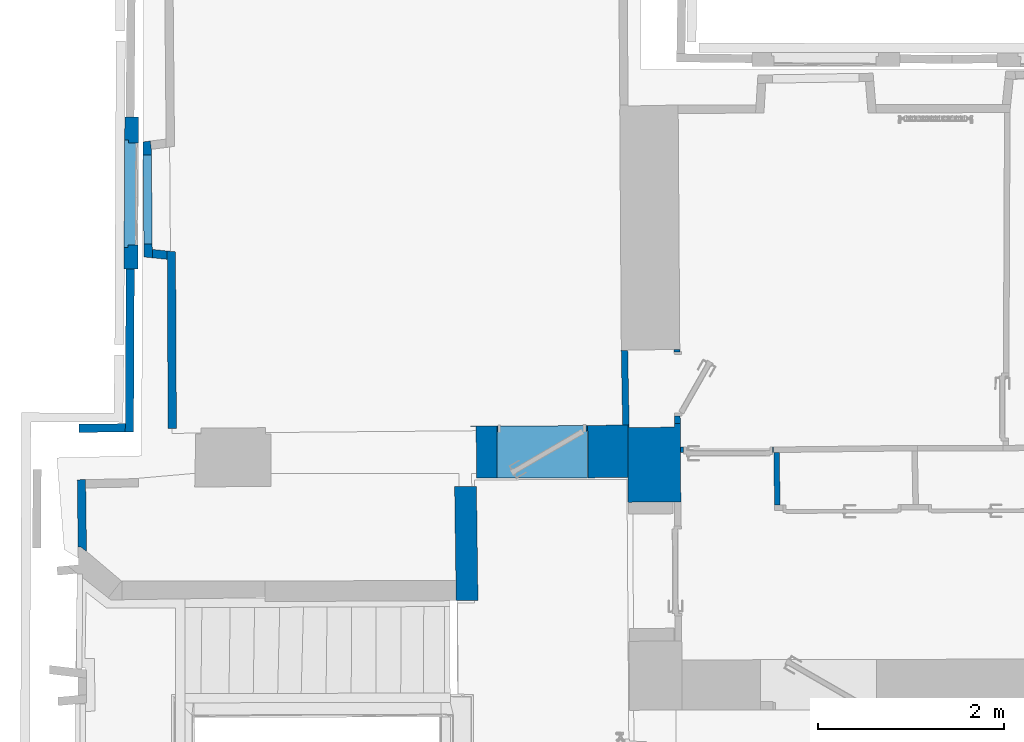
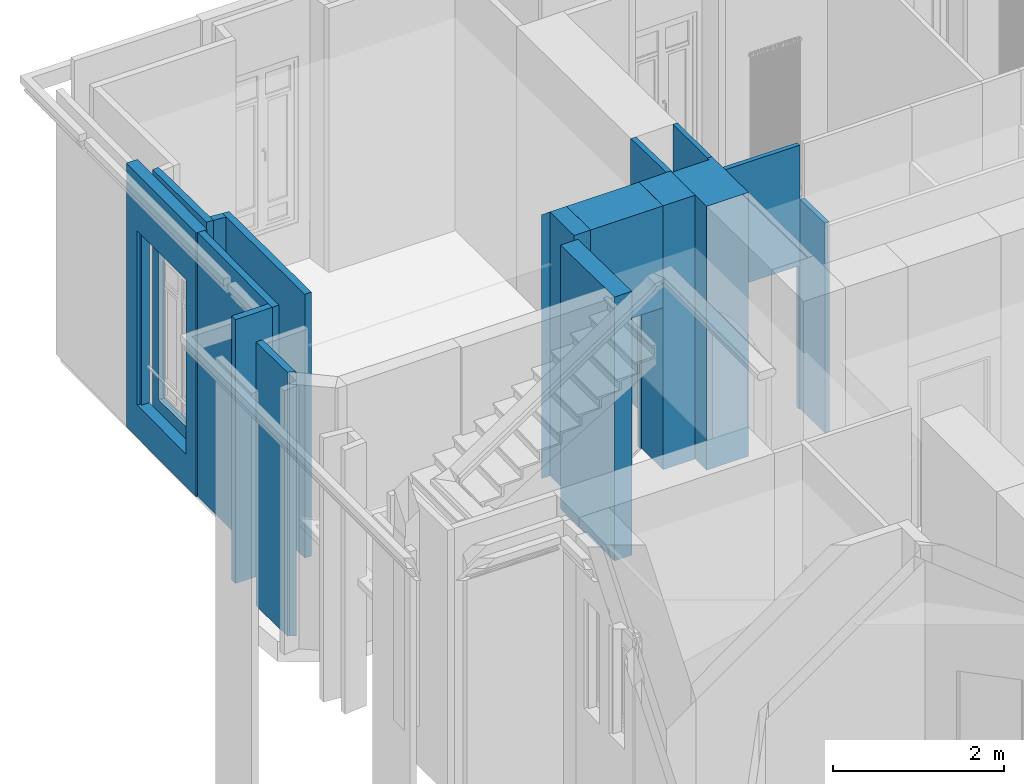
# One storey, part 8 of 66: 17 walls, 6 openings.
"""IFC2X3 building model written with IfcOpenShell, lengths in centimetres."""

import ifcopenshell
import ifcopenshell.guid

model = None  # the IFC model being written
_history = None  # IfcOwnerHistory: only IFC2X3 demands one
_inside = {}  # id of a spatial element -> (the spatial element, [elements in it])
_under = {}  # id of a project, library or spatial element -> (it, [spatial elements below it])
_declared = {}  # id of a project -> (the project, [libraries it declares])
_typed = {}  # id of a type object -> (the type object, [elements of that type])
_made_of = {}  # id of a material, layer set ... -> (it, [elements and type objects made of it])


def new_model(schema):
    """Start an empty IFC model of exactly this schema.

    Asked for "IFC4X3", IfcOpenShell would pick the latest addendum, in which some entities
    have other attributes; the version numbers below select the first issue.
    IFC2X3 requires an IfcOwnerHistory on every rooted entity: one is made here for all.
    """
    global model, _history
    if schema == "IFC4X3":
        model = ifcopenshell.file(schema_version=(4, 3, 0, 0))
    else:
        model = ifcopenshell.file(schema=schema)
    _inside.clear()
    _under.clear()
    _declared.clear()
    _typed.clear()
    _made_of.clear()
    _history = None
    if model.schema == "IFC2X3":
        org = make("IfcOrganization", Name="unknown")
        user = make(
            "IfcPersonAndOrganization",
            ThePerson=make("IfcPerson", FamilyName="unknown"),
            TheOrganization=org,
        )
        app = make(
            "IfcApplication",
            ApplicationDeveloper=org,
            Version="unknown",
            ApplicationFullName="unknown",
            ApplicationIdentifier="unknown",
        )
        _history = make(
            "IfcOwnerHistory",
            OwningUser=user,
            OwningApplication=app,
            ChangeAction="ADDED",
            CreationDate=0,
        )
    return model


def make(cls, **values):
    """One entity of the class cls with the attributes given. An attribute that is None is left unset."""
    return model.create_entity(
        cls, **{name: value for name, value in values.items() if value is not None}
    )


def entity(cls, *values):
    """Any entity or typed value of the class cls, its attributes in the order of the schema. None: left unset."""
    e = model.create_entity(cls)
    for i, value in enumerate(values):
        if value is not None:
            e[i] = value
    return e


def rooted(cls, **values):
    """An entity with a GlobalId (a new one), such as an element, a storey or a relation."""
    return make(cls, GlobalId=ifcopenshell.guid.new(), OwnerHistory=_history, **values)


def si_unit(unit_type, name, prefix=None):
    """IfcSIUnit, for example si_unit("LENGTHUNIT", "METRE", prefix="MILLI")."""
    return make("IfcSIUnit", UnitType=unit_type, Prefix=prefix, Name=name)


def converted_unit(unit_type, name, factor, base, dimensions=None, offset=None):
    """IfcConversionBasedUnit, such as the inch: factor (a typed value) times the base unit."""
    return make(
        "IfcConversionBasedUnit"
        if offset is None
        else "IfcConversionBasedUnitWithOffset",
        ConversionOffset=offset,
        Dimensions=None
        if dimensions is None
        else entity("IfcDimensionalExponents", *dimensions),
        UnitType=unit_type,
        Name=name,
        ConversionFactor=make(
            "IfcMeasureWithUnit", ValueComponent=factor, UnitComponent=base
        ),
    )


def assignment(units):
    """IfcUnitAssignment: the units of a project."""
    return None if units is None else make("IfcUnitAssignment", Units=units)


def point(xyz):
    """IfcCartesianPoint."""
    return None if xyz is None else make("IfcCartesianPoint", Coordinates=xyz)


def direction(xyz):
    """IfcDirection."""
    return None if xyz is None else make("IfcDirection", DirectionRatios=xyz)


def frame(location, z_axis=None, x_axis=None):
    """IfcAxis2Placement3D, a coordinate frame: its origin and axes. An axis left out is left unset."""
    return make(
        "IfcAxis2Placement3D",
        Location=point(location),
        Axis=direction(z_axis),
        RefDirection=direction(x_axis),
    )


def frame_2d(location, x_axis=None):
    """IfcAxis2Placement2D, a coordinate frame in the plane: its origin and x axis."""
    return make(
        "IfcAxis2Placement2D", Location=point(location), RefDirection=direction(x_axis)
    )


def origin():
    """The frame at (0, 0, 0) with its axes left unset."""
    return frame((0.0, 0.0, 0.0))


def origin_with_axes():
    """The frame at (0, 0, 0) with the z axis (0, 0, 1) and the x axis (1, 0, 0) written out."""
    return frame((0.0, 0.0, 0.0), z_axis=(0.0, 0.0, 1.0), x_axis=(1.0, 0.0, 0.0))


def origin_2d_with_axis():
    """The frame at (0, 0) in the plane with the x axis (1, 0) written out."""
    return frame_2d((0.0, 0.0), x_axis=(1.0, 0.0))


def place(relative_to, where):
    """IfcLocalPlacement: puts the frame where relative to a parent placement (None: the world)."""
    return make(
        "IfcLocalPlacement", PlacementRelTo=relative_to, RelativePlacement=where
    )


def context(
    kind, dimensions, precision=None, world=None, true_north=None, identifier=None
):
    """IfcGeometricRepresentationContext, for example the 3D "Model" context."""
    return make(
        "IfcGeometricRepresentationContext",
        ContextIdentifier=identifier,
        ContextType=kind,
        CoordinateSpaceDimension=dimensions,
        Precision=precision,
        WorldCoordinateSystem=world,
        TrueNorth=true_north,
    )


def subcontext(parent, identifier, kind, view, scale=None):
    """IfcGeometricRepresentationSubContext, for example "Body" below "Model"."""
    return make(
        "IfcGeometricRepresentationSubContext",
        ContextIdentifier=identifier,
        ContextType=kind,
        ParentContext=parent,
        TargetScale=scale,
        TargetView=view,
    )


def project(units=None, contexts=None):
    """IfcProject with its units and contexts."""
    return rooted(
        "IfcProject",
        Name="project",
        RepresentationContexts=contexts,
        UnitsInContext=assignment(units),
    )


def spatial(cls, under=None, at=None, **own):
    """A site, building, storey or space (cls), placed at a placement, below another one or the project."""
    s = rooted(cls, ObjectPlacement=at, **own)
    if under is not None:
        _under.setdefault(under.id(), (under, []))[1].append(s)
    return s


def polyline(points):
    """IfcPolyline through the points."""
    return make("IfcPolyline", Points=[point(p) for p in points])


def profile(cls, at=None, kind="AREA", **sizes):
    """A parametric profile (cls). Its sizes go by their IFC names, for example OverallWidth=200.0."""
    return make(cls, ProfileType=kind, Position=at, **sizes)


def rectangle(**sizes):
    """IfcRectangleProfileDef."""
    return profile("IfcRectangleProfileDef", **sizes)


def outline(outer, holes=None, kind="AREA"):
    """IfcArbitraryClosedProfileDef: a profile drawn as a closed curve; with holes, ...WithVoids."""
    if holes is None:
        return make("IfcArbitraryClosedProfileDef", ProfileType=kind, OuterCurve=outer)
    return make(
        "IfcArbitraryProfileDefWithVoids",
        ProfileType=kind,
        OuterCurve=outer,
        InnerCurves=holes,
    )


def extrude(swept, where, along, depth):
    """IfcExtrudedAreaSolid: the profile swept, set in the frame where, extruded along a direction by depth."""
    return make(
        "IfcExtrudedAreaSolid",
        SweptArea=swept,
        Position=where,
        ExtrudedDirection=direction(along),
        Depth=depth,
    )


def clip(a, b, op="DIFFERENCE"):
    """IfcBooleanClippingResult: the solid a cut by the half space b."""
    return make(
        "IfcBooleanClippingResult", Operator=op, FirstOperand=a, SecondOperand=b
    )


def bounded_halfspace(plane, agree, where, boundary):
    """IfcPolygonalBoundedHalfSpace: a half space limited to a polygon's prism."""
    return make(
        "IfcPolygonalBoundedHalfSpace",
        BaseSurface=make("IfcPlane", Position=plane),
        AgreementFlag=agree,
        Position=where,
        PolygonalBoundary=boundary,
    )


def faces_of(points, faces, orient=None, outer=None):
    """IfcFace entities. A face is a list of loops; a loop is a list of indices into points, from 0.

    orient and outer hold one flag for each loop. By default every Orientation is true, the
    first loop of a face is its IfcFaceOuterBound and the others are IfcFaceBound.
    """
    made = []
    for i, loops in enumerate(faces):
        bounds = []
        for j, loop in enumerate(loops):
            is_outer = j == 0 if outer is None else outer[i][j]
            bounds.append(
                make(
                    "IfcFaceOuterBound" if is_outer else "IfcFaceBound",
                    Bound=make("IfcPolyLoop", Polygon=[points[k] for k in loop]),
                    Orientation=True if orient is None else orient[i][j],
                )
            )
        made.append(make("IfcFace", Bounds=bounds))
    return made


def faceted_brep(points, faces, orient=None, outer=None, voids=None):
    """IfcFacetedBrep: a solid bounded by flat faces; with voids (closed shells), ...WithVoids."""
    shared = [point(p) for p in points]
    hull = make("IfcClosedShell", CfsFaces=faces_of(shared, faces, orient, outer))
    if voids is None:
        return make("IfcFacetedBrep", Outer=hull)
    return make(
        "IfcFacetedBrepWithVoids",
        Outer=hull,
        Voids=[
            make(cls, CfsFaces=faces_of(shared, fs, o, b)) for cls, fs, o, b in voids
        ],
    )


def shape(context_of_items, identifier, shape_type, items):
    """IfcShapeRepresentation: the items that make up one representation, for example the "Body"."""
    return make(
        "IfcShapeRepresentation",
        ContextOfItems=context_of_items,
        RepresentationIdentifier=identifier,
        RepresentationType=shape_type,
        Items=items,
    )


def material(Name=None, Category=None):
    """IfcMaterial."""
    return make("IfcMaterial", Name=Name, Category=Category)


def layer(
    of_material, thickness, ventilated=None, Name=None, Category=None, Priority=None
):
    """IfcMaterialLayer: one layer of a wall or slab, of a material (None: an air gap)."""
    return make(
        "IfcMaterialLayer",
        Material=of_material,
        LayerThickness=thickness,
        IsVentilated=ventilated,
        Name=Name,
        Category=Category,
        Priority=Priority,
    )


def layer_set(layers, Name=None):
    """IfcMaterialLayerSet."""
    return make("IfcMaterialLayerSet", MaterialLayers=layers, LayerSetName=Name)


def layer_usage(for_layer_set, set_direction, sense, offset, extent=None):
    """IfcMaterialLayerSetUsage: how a layer set lies in its element."""
    return make(
        "IfcMaterialLayerSetUsage",
        ForLayerSet=for_layer_set,
        LayerSetDirection=set_direction,
        DirectionSense=sense,
        OffsetFromReferenceLine=offset,
        ReferenceExtent=extent,
    )


def made_of(thing, what):
    """Note that an element or type object is made of a material, layer set ...; save() writes the relation."""
    if what is not None:
        _made_of.setdefault(what.id(), (what, []))[1].append(thing)
    return thing


def type_object(cls, material=None, **own):
    """A type object (cls), such as IfcWallType, which elements share."""
    return made_of(rooted(cls, **own), material)


def element(
    cls,
    number,
    at=None,
    inside=None,
    cuts=None,
    type_object=None,
    material=None,
    context=None,
    identifier="Body",
    shape_type=None,
    held_by="IfcProductDefinitionShape",
    body=None,
    shapes=None,
    **own,
):
    """One element of the class cls, such as IfcWall. Its Tag is "e" and its number.

    at: its placement. inside: the storey or other place that contains it. cuts: it is an
    opening in that element (IfcRelVoidsElement). A single representation is given by context,
    identifier, shape_type and body (its items); several are given by shapes. held_by: the class
    of the entity that holds the representations. save() writes the other relations.
    """
    e = rooted(cls, Tag="e%d" % number, ObjectPlacement=at, **own)
    if body is not None:
        shapes = [shape(context, identifier, shape_type, body)]
    if shapes is not None:
        e.Representation = make(held_by, Representations=shapes)
    if inside is not None:
        _inside.setdefault(inside.id(), (inside, []))[1].append(e)
    if cuts is not None:
        rooted(
            "IfcRelVoidsElement", RelatingBuildingElement=cuts, RelatedOpeningElement=e
        )
    if type_object is not None:
        _typed.setdefault(type_object.id(), (type_object, []))[1].append(e)
    return made_of(e, material)


def aggregate(whole, parts):
    """IfcRelAggregates: a whole, such as a stair, and the parts it consists of."""
    return rooted("IfcRelAggregates", RelatingObject=whole, RelatedObjects=parts)


def save(model, path):
    """Write the relations noted so far, then the file.

    IfcRelAggregates (storeys below a building ...), IfcRelContainedInSpatialStructure (elements
    in a storey), IfcRelDefinesByType, IfcRelAssociatesMaterial and IfcRelDeclares: one each for
    every whole, place, type object, material and project.
    """
    for whole, parts in _under.values():
        aggregate(whole, parts)
    for where, things in _inside.values():
        rooted(
            "IfcRelContainedInSpatialStructure",
            RelatedElements=things,
            RelatingStructure=where,
        )
    for kind, things in _typed.values():
        rooted("IfcRelDefinesByType", RelatedObjects=things, RelatingType=kind)
    for what, things in _made_of.values():
        rooted("IfcRelAssociatesMaterial", RelatedObjects=things, RelatingMaterial=what)
    for by, libraries in _declared.values():
        rooted("IfcRelDeclares", RelatingContext=by, RelatedDefinitions=libraries)
    model.write(path)


model = new_model("IFC2X3")

# Units and contexts
model_context = context("Model", 3, precision=0.0001, world=origin(), true_north=direction((0.225632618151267, 0.974212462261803, 0.0)))
body_context = subcontext(model_context, "Body", "Model", "MODEL_VIEW")
footprint_context = subcontext(model_context, "FootPrint", "Model", "MODEL_VIEW")
profile_context = subcontext(model_context, "Profile", "Model", "MODEL_VIEW")
ifc_project = project(units=[si_unit("LENGTHUNIT", "METRE", prefix="CENTI"), si_unit("AREAUNIT", "SQUARE_METRE", prefix="CENTI"), si_unit("VOLUMEUNIT", "CUBIC_METRE", prefix="CENTI"), converted_unit("PLANEANGLEUNIT", "DEGREE", entity("IfcRatioMeasure", 0.0174532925), si_unit("PLANEANGLEUNIT", "RADIAN"), dimensions=[0, 0, 0, 0, 0, 0, 0])], contexts=[model_context])

# Site, building, storey
site_placement = place(None, origin_with_axes())
site = spatial("IfcSite", under=ifc_project, at=site_placement, Name="Default Site", CompositionType="ELEMENT")
building_placement = place(site_placement, origin_with_axes())
building = spatial("IfcBuilding", under=site, at=building_placement, Name="Default Building", CompositionType="ELEMENT")
storey_placement = place(building_placement, frame((0.0, 0.0, 477.795358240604), z_axis=(0.0, 0.0, 1.0), x_axis=(1.0, 0.0, 0.0)))
storey = spatial("IfcBuildingStorey", under=building, at=storey_placement, Name="Niveau 1", CompositionType="ELEMENT", Elevation=477.795358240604)

# Wall, openings
ifc_material = material(Name="<aucun>")
ifc_layer_1 = layer(ifc_material, 9.0)
ifc_layer_set_1 = layer_set([ifc_layer_1], Name="default")
ifc_layer_usage_1 = layer_usage(ifc_layer_set_1, "AXIS2", "POSITIVE", -4.5)
wall_type_1 = type_object("IfcWallType", Name="default 90", PredefinedType="NOTDEFINED", material=ifc_layer_set_1)
wall_1_placement = place(storey_placement, frame((-1233.72467583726, 380.76500365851, 0.0128503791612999), z_axis=(0.0, 0.0, 1.0), x_axis=(-0.00919165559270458, 0.999957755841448, 0.0)))
wall_1 = element("IfcWallStandardCase", 1, at=wall_1_placement, inside=storey, type_object=wall_type_1, material=ifc_layer_usage_1, Name="Enveloppe 601372", context=body_context, shape_type="SweptSolid", body=[
    extrude(outline(polyline([(135.22010470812, 4.4999999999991), (11.294850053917, 4.49999999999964), (10.2808484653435, -4.49999999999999), (127.20550541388, -4.5000000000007), (136.145332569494, -3.46101471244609), (135.22010470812, 4.4999999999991)])), frame((0.0, 0.0, -8.88178419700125e-14), z_axis=(0.0, 0.0, 1.0), x_axis=(1.0, 0.0, 0.0)), (0.0, 0.0, 1.0), 376.102165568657),
])
opening_1_placement = place(wall_1_placement, frame((18.7711194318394, -2.27373675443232e-13, -3.5527136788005e-13), z_axis=(0.0, 0.0, 1.0), x_axis=(-1.0, 4.21537804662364e-15, 0.0)))
cartesian_point_1 = entity("IfcCartesianPoint", [0.0, -1.77635683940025e-13, 52.4999999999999])
cartesian_point_2 = entity("IfcCartesianPoint", [-109.068166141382, -4.49999999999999])
element("IfcOpeningElement", 2, at=opening_1_placement, cuts=wall_1, Name="Baie 115414", ObjectType="Recess", shapes=[
    shape(body_context, "Body", "Brep", [faceted_brep([(-6.89122297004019e-06, 24.4999788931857, -1.92276751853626e-05), (-109.068144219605, 24.4999788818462, -1.92276751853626e-05), (-109.068144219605, 24.4999788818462, 52.499990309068), (-6.89122297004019e-06, 24.4999788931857, 52.499990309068), (-6.88903966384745e-06, 3.50004163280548, 52.499990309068), (-6.88903966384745e-06, 3.50004163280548, -1.92276751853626e-05), (-7.40036956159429e-06, 3.50004163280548, -1.92276751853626e-05), (-109.068145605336, 3.49996058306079, -1.92276751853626e-05), (-109.068144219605, 24.4999932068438, -1.92276751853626e-05), (-109.068144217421, 3.49996058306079, -1.92276751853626e-05), (-109.068144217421, 3.49996058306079, 52.499990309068), (-109.068144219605, 24.4999932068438, 52.499990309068), (-109.068145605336, 3.49996058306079, 52.499990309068), (-7.40036956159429e-06, 3.50004163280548, 52.499990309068), (-7.40036955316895e-06, 3.49996059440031, -1.92276751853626e-05), (-7.40036955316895e-06, 3.49996059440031, 52.499990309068)], [[[0, 1, 2, 3]], [[3, 4, 5, 0]], [[0, 6, 7, 8]], [[8, 9, 10, 11]], [[11, 12, 13, 3]], [[12, 7, 14, 15]]])]),
    shape(profile_context, "Profile", "GeometricCurveSet", [entity("IfcGeometricCurveSet", [entity("IfcPolyline", [cartesian_point_1, entity("IfcCartesianPoint", [0.0, -1.77635683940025e-13, -8.88178419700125e-14]), entity("IfcCartesianPoint", [-109.068166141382, 0.0, -8.88178419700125e-14]), entity("IfcCartesianPoint", [-109.068166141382, 0.0, 52.4999999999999]), cartesian_point_1])])]),
    shape(footprint_context, "FootPrint", "GeometricCurveSet", [entity("IfcGeometricCurveSet", [entity("IfcPolyline", [cartesian_point_2, entity("IfcCartesianPoint", [8.88178419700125e-14, -4.50000000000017]), entity("IfcCartesianPoint", [0.0, 4.49999999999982]), entity("IfcCartesianPoint", [-109.068166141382, 4.49999999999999]), cartesian_point_2])])]),
])
opening_2_placement = place(wall_1_placement, frame((25.2711194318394, -2.27373675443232e-13, 56.4871496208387), z_axis=(0.0, 0.0, 1.0), x_axis=(-1.0, 4.21537804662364e-15, 0.0)))
cartesian_point_3 = entity("IfcCartesianPoint", [0.0, 0.0, 212.703082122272])
cartesian_point_4 = entity("IfcCartesianPoint", [-96.0681661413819, -4.49999999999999])
element("IfcOpeningElement", 3, at=opening_2_placement, cuts=wall_1, Name="4294966427_11", ObjectType="Opening", shapes=[
    shape(body_context, "Body", "SweptSolid", [extrude(outline(polyline([(0.0, 212.703082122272), (0.0, 0.0), (96.0681661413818, 0.0), (96.0681661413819, 212.703082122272), (0.0, 212.703082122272)])), frame((0.0, -14.5, 0.0), z_axis=(0.0, 1.0, 0.0), x_axis=(-1.0, 0.0, 0.0)), (0.0, 0.0, 1.0), 29.0)]),
    shape(profile_context, "Profile", "GeometricCurveSet", [entity("IfcGeometricCurveSet", [entity("IfcPolyline", [cartesian_point_3, entity("IfcCartesianPoint", [0.0, 0.0, 0.0]), entity("IfcCartesianPoint", [-96.0681661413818, 0.0, 0.0]), entity("IfcCartesianPoint", [-96.0681661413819, 0.0, 212.703082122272]), cartesian_point_3])])]),
    shape(footprint_context, "FootPrint", "GeometricCurveSet", [entity("IfcGeometricCurveSet", [entity("IfcPolyline", [cartesian_point_4, entity("IfcCartesianPoint", [0.0, -4.49999999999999]), entity("IfcCartesianPoint", [-8.88178419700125e-14, 4.49999999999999]), entity("IfcCartesianPoint", [-96.0681661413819, 4.49999999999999]), cartesian_point_4])])]),
])

# Walls
ifc_layer_usage_2 = layer_usage(ifc_layer_set_1, "AXIS2", "POSITIVE", -4.5)
wall_2_placement = place(storey_placement, frame((-1204.84046801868, 393.080429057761, 0.0128503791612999), z_axis=(0.0, 0.0, 1.0), x_axis=(-0.99469998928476, 0.102819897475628, 0.0)))
element("IfcWallStandardCase", 4, at=wall_2_placement, inside=storey, type_object=wall_type_1, material=ifc_layer_usage_2, Name="Enveloppe 601577", context=body_context, shape_type="SweptSolid", body=[
    extrude(outline(polyline([(25.1581723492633, -4.49999999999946), (24.1441707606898, 4.50000000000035), (8.00629896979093, 4.50000000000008), (8.98106806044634, -4.49999999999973), (25.1581723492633, -4.49999999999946)])), frame((0.0, 0.0, -1.77635683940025e-13), z_axis=(0.0, 0.0, 1.0), x_axis=(1.0, 0.0, 0.0)), (0.0, 0.0, 1.0), 376.102165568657),
])
ifc_layer_usage_3 = layer_usage(ifc_layer_set_1, "AXIS2", "POSITIVE", -4.5)
wall_3_placement = place(storey_placement, frame((-1207.87755879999, 207.366578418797, 0.0128503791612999), z_axis=(0.0, 0.0, 1.0), x_axis=(-0.00488517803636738, 0.999988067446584, 0.0)))
element("IfcWallStandardCase", 5, at=wall_3_placement, inside=storey, type_object=wall_type_1, material=ifc_layer_usage_3, Name="Enveloppe 93894", context=body_context, shape_type="SweptSolid", body=[
    extrude(outline(polyline([(191.137697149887, 4.50000000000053), (0.0474882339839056, 4.49999999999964), (0.0192687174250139, -4.49999999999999), (190.162928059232, -4.49999999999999), (191.137697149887, 4.50000000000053)])), frame((0.0, 0.0, -1.77635683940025e-13), z_axis=(0.0, 0.0, 1.0), x_axis=(1.0, 0.0, 0.0)), (0.0, 0.0, 1.0), 376.102165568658),
])
ifc_layer_usage_4 = layer_usage(ifc_layer_set_1, "AXIS2", "POSITIVE", -4.5)
wall_4_placement = place(storey_placement, frame((-1304.6920001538, 72.5126109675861, 0.0128503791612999), z_axis=(0.0, 0.0, 1.0), x_axis=(-0.0132160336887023, 0.999912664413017, 0.0)))
element("IfcWallStandardCase", 6, at=wall_4_placement, inside=storey, type_object=wall_type_1, material=ifc_layer_usage_4, Name="Enveloppe 94314", context=body_context, shape_type="SweptSolid", body=[
    extrude(outline(polyline([(79.4922915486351, 4.49999999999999), (7.12642857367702, 4.49999999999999), (7.12642857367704, 1.64568908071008), (2.15340177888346, -4.49999999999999), (79.5574651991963, -4.49999999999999), (79.4922915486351, 4.49999999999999)])), frame((0.0, 0.0, -8.88178419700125e-14), z_axis=(0.0, 0.0, 1.0), x_axis=(1.0, 0.0, 0.0)), (0.0, 0.0, 1.0), 376.102165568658),
])

# Wall, opening
ifc_layer_2 = layer(ifc_material, 6.0)
ifc_layer_set_2 = layer_set([ifc_layer_2], Name="default")
ifc_layer_usage_5 = layer_usage(ifc_layer_set_2, "AXIS2", "POSITIVE", -3.0)
wall_type_2 = type_object("IfcWallType", Name="default 60", PredefinedType="NOTDEFINED", material=ifc_layer_set_2)
wall_5_placement = place(storey_placement, frame((-559.762901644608, 184.349848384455, 0.0128503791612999), z_axis=(0.0, 0.0, 1.0), x_axis=(-0.999998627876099, 0.00165657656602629, 0.0)))
wall_5 = element("IfcWallStandardCase", 7, at=wall_5_placement, inside=storey, type_object=wall_type_2, material=ifc_layer_usage_5, Name="Enveloppe 92784", context=body_context, shape_type="Clipping", body=[
    clip(clip(extrude(outline(polyline([(100.602058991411, -2.99999999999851), (100.551954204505, 3.00000000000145), (0.0, 3.00000000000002), (0.0, -2.919862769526), (-5.85015996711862, -3.00000000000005), (100.602058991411, -2.99999999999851)])), origin_with_axes(), (0.0, 0.0, 1.0), 376.102165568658), bounded_halfspace(frame((0.0, -2.919862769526, 298.702165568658), z_axis=(0.0, 0.0, 1.0), x_axis=(-3.99203239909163e-15, 1.0, 0.0)), True, frame((0.0, -2.919862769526, 298.702165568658), z_axis=(0.0, 0.0, 1.0), x_axis=(1.0, 0.0, 0.0)), polyline([(0.0, 0.0), (0.0, 5.91986276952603), (0.153158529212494, 5.91986276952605), (0.153158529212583, 0.00209801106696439), (0.0, 0.0)]))), bounded_halfspace(frame((8.88178419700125e-14, -2.99999999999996, 298.702165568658), z_axis=(0.0, 0.0, -1.0), x_axis=(-8.13431136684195e-13, 1.0, 0.0)), True, frame((8.88178419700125e-14, -2.99999999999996, 298.702165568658), z_axis=(0.0, 0.0, 1.0), x_axis=(1.0, 0.0, 0.0)), polyline([(-5.8501599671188, -8.88178419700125e-14), (0.0, 2.22044604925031e-14), (-8.88178419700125e-14, 0.0801372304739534), (-5.8501599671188, -8.88178419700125e-14)]))),
])
opening_3_placement = place(wall_5_placement, frame((1.30117816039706, -2.8421709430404e-14, -3.5527136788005e-13), z_axis=(0.0, 0.0, 1.0), x_axis=(1.0, 1.44975177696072e-14, 0.0)))
cartesian_point_5 = entity("IfcCartesianPoint", [0.0, 0.0, 204.4])
cartesian_point_6 = entity("IfcCartesianPoint", [96.0, 3.00000000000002])
element("IfcOpeningElement", 8, at=opening_3_placement, cuts=wall_5, Name="4294966366_11", ObjectType="Opening", shapes=[
    shape(body_context, "Body", "SweptSolid", [extrude(outline(polyline([(8.88178419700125e-14, 204.4), (8.88178419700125e-14, -8.88178419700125e-14), (96.0, -8.88178419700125e-14), (96.0, 204.4), (8.88178419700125e-14, 204.4)])), frame((0.0, 13.0, 0.0), z_axis=(0.0, -1.0, 0.0), x_axis=(1.0, 0.0, 0.0)), (0.0, 0.0, 1.0), 26.0)]),
    shape(profile_context, "Profile", "GeometricCurveSet", [entity("IfcGeometricCurveSet", [entity("IfcPolyline", [cartesian_point_5, entity("IfcCartesianPoint", [0.0, 0.0, -8.88178419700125e-14]), entity("IfcCartesianPoint", [96.0, 0.0, -8.88178419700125e-14]), entity("IfcCartesianPoint", [96.0, 0.0, 204.4]), cartesian_point_5])])]),
    shape(footprint_context, "FootPrint", "GeometricCurveSet", [entity("IfcGeometricCurveSet", [entity("IfcPolyline", [cartesian_point_6, entity("IfcCartesianPoint", [2.66453525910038e-13, 3.00000000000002]), entity("IfcCartesianPoint", [2.66453525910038e-13, -2.99999999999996]), entity("IfcCartesianPoint", [96.0, -2.99999999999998]), cartesian_point_6])])]),
])

ifc_layer_usage_6 = layer_usage(ifc_layer_set_2, "AXIS2", "POSITIVE", -3.0)
wall_6_placement = place(storey_placement, frame((-858.079757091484, 206.912569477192, 0.0128503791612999), z_axis=(0.0, 0.0, 1.0), x_axis=(0.999993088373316, 0.00371795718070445, 0.0)))
wall_6 = element("IfcWallStandardCase", 9, at=wall_6_placement, inside=storey, type_object=wall_type_2, material=ifc_layer_usage_6, Name="Enveloppe 116205", context=body_context, shape_type="SweptSolid", body=[
    extrude(rectangle(XDim=97.6601549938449, YDim=5.99999999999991, at=origin_2d_with_axis()), frame((48.930399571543, -8.88178419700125e-14, -1.77635683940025e-13), z_axis=(0.0, 0.0, 1.0), x_axis=(1.0, -1.0321604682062e-15, 0.0)), (0.0, 0.0, 1.0), 230.987149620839),
])
opening_4_placement = place(wall_6_placement, frame((0.986764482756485, 0.0, -3.5527136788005e-13), z_axis=(0.0, 0.0, 1.0), x_axis=(-1.0, 1.58727198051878e-16, 0.0)))
cartesian_point_7 = entity("IfcCartesianPoint", [0.0, 0.0, 207.0])
cartesian_point_8 = entity("IfcCartesianPoint", [-94.9999999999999, -2.99999999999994])
element("IfcOpeningElement", 10, at=opening_4_placement, cuts=wall_6, Name="4294966392_11", ObjectType="Opening", shapes=[
    shape(body_context, "Body", "SweptSolid", [extrude(outline(polyline([(0.0, 207.0), (0.0, 0.0), (94.9999999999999, 0.0), (94.9999999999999, 207.0), (0.0, 207.0)])), frame((0.0, -13.0, 0.0), z_axis=(0.0, 1.0, 0.0), x_axis=(-1.0, 0.0, 0.0)), (0.0, 0.0, 1.0), 26.0)]),
    shape(profile_context, "Profile", "GeometricCurveSet", [entity("IfcGeometricCurveSet", [entity("IfcPolyline", [cartesian_point_7, entity("IfcCartesianPoint", [0.0, 0.0, 0.0]), entity("IfcCartesianPoint", [-94.9999999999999, 8.88178419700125e-14, 0.0]), entity("IfcCartesianPoint", [-94.9999999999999, 8.88178419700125e-14, 207.0]), cartesian_point_7])])]),
    shape(footprint_context, "FootPrint", "GeometricCurveSet", [entity("IfcGeometricCurveSet", [entity("IfcPolyline", [cartesian_point_8, entity("IfcCartesianPoint", [0.0, -2.99999999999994]), entity("IfcCartesianPoint", [0.0, 3.00000000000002]), entity("IfcCartesianPoint", [-94.9999999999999, 3.00000000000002]), cartesian_point_8])])]),
])

ifc_layer_usage_7 = layer_usage(ifc_layer_set_2, "AXIS2", "POSITIVE", -3.0)
wall_7_placement = place(storey_placement, frame((-663.24168511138, 169.854004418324, 0.0128503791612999), z_axis=(0.0, 0.0, 1.0), x_axis=(-0.0066939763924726, 0.999977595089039, 0.0)))
wall_7 = element("IfcWallStandardCase", 11, at=wall_7_placement, inside=storey, type_object=wall_type_2, material=ifc_layer_usage_7, Name="Enveloppe 103209", context=body_context, shape_type="SweptSolid", body=[
    extrude(rectangle(XDim=6.00000000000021, YDim=79.9179263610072, at=origin_2d_with_axis()), frame((82.5515414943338, -1.77635683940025e-13, 8.88178419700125e-14), z_axis=(0.0, 0.0, 1.0), x_axis=(-7.59982354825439e-15, -1.0, 0.0)), (0.0, 0.0, 1.0), 376.102165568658),
])
opening_5_placement = place(wall_7_placement, frame((51.0317572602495, -2.27373675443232e-13, -1.77635683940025e-13), z_axis=(0.0, 0.0, 1.0), x_axis=(-1.0, 9.22872889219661e-16, 0.0)))
cartesian_point_9 = entity("IfcCartesianPoint", [0.0, -8.88178419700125e-14, 201.4])
cartesian_point_10 = entity("IfcCartesianPoint", [-68.995920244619, -3.00000000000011])
element("IfcOpeningElement", 12, at=opening_5_placement, cuts=wall_7, Name="4294966334_11", ObjectType="Opening", shapes=[
    shape(body_context, "Body", "SweptSolid", [extrude(outline(polyline([(8.88178419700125e-14, 201.4), (0.0, 0.0), (68.995920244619, 0.0), (68.995920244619, 201.4), (8.88178419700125e-14, 201.4)])), frame((0.0, -13.0, 0.0), z_axis=(0.0, 1.0, 0.0), x_axis=(-1.0, 0.0, 0.0)), (0.0, 0.0, 1.0), 26.0)]),
    shape(profile_context, "Profile", "GeometricCurveSet", [entity("IfcGeometricCurveSet", [entity("IfcPolyline", [cartesian_point_9, entity("IfcCartesianPoint", [0.0, -8.88178419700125e-14, 0.0]), entity("IfcCartesianPoint", [-68.995920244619, -8.88178419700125e-14, 0.0]), entity("IfcCartesianPoint", [-68.995920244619, -8.88178419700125e-14, 201.4]), cartesian_point_9])])]),
    shape(footprint_context, "FootPrint", "GeometricCurveSet", [entity("IfcGeometricCurveSet", [entity("IfcPolyline", [cartesian_point_10, entity("IfcCartesianPoint", [0.0, -3.00000000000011]), entity("IfcCartesianPoint", [0.0, 2.99999999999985]), entity("IfcCartesianPoint", [-68.995920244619, 2.99999999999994]), cartesian_point_10])])]),
])

# Walls
ifc_layer_usage_8 = layer_usage(ifc_layer_set_2, "AXIS2", "POSITIVE", -3.0)
wall_8_placement = place(storey_placement, frame((-555.906561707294, 118.687913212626, 0.0128503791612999), z_axis=(0.0, 0.0, 1.0), x_axis=(-0.0145870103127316, 0.999893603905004, 0.0)))
element("IfcWallStandardCase", 13, at=wall_8_placement, inside=storey, type_object=wall_type_2, material=ifc_layer_usage_8, Name="Enveloppe 103698", context=body_context, shape_type="SweptSolid", body=[
    extrude(outline(polyline([(62.6310398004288, 2.99999999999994), (6.07875158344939, 2.99999999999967), (6.0145167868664, -3.00000000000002), (62.615759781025, -2.99999999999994), (62.6310398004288, 2.99999999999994)])), origin_with_axes(), (0.0, 0.0, 1.0), 298.702165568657),
])
ifc_layer_3 = layer(ifc_material, 7.0)
ifc_layer_set_3 = layer_set([ifc_layer_3], Name="default")
ifc_layer_usage_9 = layer_usage(ifc_layer_set_3, "AXIS2", "POSITIVE", -3.5)
wall_type_3 = type_object("IfcWallType", Name="default 70", PredefinedType="NOTDEFINED", material=ifc_layer_set_3)
wall_9_placement = place(storey_placement, frame((-719.103140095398, 208.266844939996, 0.0128503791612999), z_axis=(0.0, 0.0, 1.0), x_axis=(-0.0186533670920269, 0.999826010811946, 0.0)))
element("IfcWallStandardCase", 14, at=wall_9_placement, inside=storey, type_object=wall_type_3, material=ifc_layer_usage_9, Name="Enveloppe 103324", context=body_context, shape_type="SweptSolid", body=[
    extrude(outline(polyline([(83.7821282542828, 3.50000000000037), (2.89702254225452, 3.50000000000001), (2.80295584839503, -2.06398477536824), (2.99702254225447, -2.06630600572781), (2.99702254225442, -3.5000000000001), (83.1894540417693, -3.49999999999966), (83.1894540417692, 3.40221727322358), (83.7811846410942, 3.39513958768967), (83.7821282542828, 3.50000000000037)])), frame((0.0, 0.0, -4.44089209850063e-13), z_axis=(0.0, 0.0, 1.0), x_axis=(1.0, 0.0, 0.0)), (0.0, 0.0, 1.0), 376.102165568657),
])
ifc_layer_4 = layer(ifc_material, 23.5)
ifc_layer_set_4 = layer_set([ifc_layer_4], Name="default")
ifc_layer_usage_10 = layer_usage(ifc_layer_set_4, "AXIS2", "POSITIVE", -11.75)
wall_type_4 = type_object("IfcWallType", Name="default 235", PredefinedType="NOTDEFINED", material=ifc_layer_set_4)
wall_10_placement = place(storey_placement, frame((-890.245736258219, 21.3843089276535, 0.0128503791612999), z_axis=(0.0, 0.0, 1.0), x_axis=(-0.0135262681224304, 0.999908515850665, 0.0)))
element("IfcWallStandardCase", 15, at=wall_10_placement, inside=storey, type_object=wall_type_4, material=ifc_layer_usage_10, Name="Enveloppe 94341", context=body_context, shape_type="SweptSolid", body=[
    extrude(outline(polyline([(123.670589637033, 11.7500000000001), (0.463547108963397, 11.7500000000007), (0.253866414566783, -11.75), (123.393817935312, -11.7500000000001), (123.670589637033, 11.7500000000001)])), origin_with_axes(), (0.0, 0.0, 1.0), 376.102165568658),
])
ifc_layer_usage_11 = layer_usage(ifc_layer_set_1, "AXIS2", "POSITIVE", -4.5)
wall_type_5 = type_object("IfcWallType", Name="default 90", PredefinedType="NOTDEFINED", material=ifc_layer_set_1)
wall_11_placement = place(storey_placement, frame((-1253.99015703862, 212.366991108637, 0.0128503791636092), z_axis=(0.0, 0.0, 1.0), x_axis=(0.0048785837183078, 0.999988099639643, 0.0)))
element("IfcWallStandardCase", 16, at=wall_11_placement, inside=storey, type_object=wall_type_5, material=ifc_layer_usage_11, Name="Enveloppe 422609", context=body_context, shape_type="SweptSolid", body=[
    extrude(outline(polyline([(-9.00211753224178, 4.49999999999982), (-8.89277483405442, -4.49999999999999), (166.499623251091, -4.49999999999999), (166.504455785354, 4.49999999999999), (-9.00211753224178, 4.49999999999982)])), frame((0.0, 0.0, -1.77635683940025e-13), z_axis=(0.0, 0.0, 1.0), x_axis=(1.0, 0.0, 0.0)), (0.0, 0.0, 1.0), 376.102165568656),
])
ifc_layer_usage_12 = layer_usage(ifc_layer_set_1, "AXIS2", "POSITIVE", -4.5)
wall_12_placement = place(storey_placement, frame((-1308.30093347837, 207.525242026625, 0.0128503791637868), z_axis=(0.0, 0.0, 1.0), x_axis=(0.999973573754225, 0.00726992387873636, 0.0)))
element("IfcWallStandardCase", 17, at=wall_12_placement, inside=storey, type_object=wall_type_5, material=ifc_layer_usage_12, Name="Enveloppe 422672", context=body_context, shape_type="SweptSolid", body=[
    extrude(outline(polyline([(0.0, 4.49999999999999), (1.77635683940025e-13, -4.49999999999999), (49.7355120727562, -4.49999999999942), (49.8448547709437, 4.50000000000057), (0.0, 4.49999999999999)])), frame((0.0, 0.0, -2.93098878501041e-12), z_axis=(0.0, 0.0, 1.0), x_axis=(1.0, 0.0, 0.0)), (0.0, 0.0, 1.0), 376.102165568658),
])

# Wall, opening
ifc_layer_5 = layer(ifc_material, 15.0)
ifc_layer_set_5 = layer_set([ifc_layer_5], Name="default")
ifc_layer_usage_13 = layer_usage(ifc_layer_set_5, "AXIS2", "POSITIVE", -7.5)
wall_type_6 = type_object("IfcWallType", Name="default 150", PredefinedType="NOTDEFINED", material=ifc_layer_set_5)
wall_13_placement = place(storey_placement, frame((-1252.37505305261, 378.862701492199, 0.0128503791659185), z_axis=(0.0, 0.0, 1.0), x_axis=(0.00541552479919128, 0.999985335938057, 0.0)))
wall_13 = element("IfcWallStandardCase", 18, at=wall_13_placement, inside=storey, type_object=wall_type_6, material=ifc_layer_usage_13, Name="Enveloppe 425479", context=body_context, shape_type="SweptSolid", body=[
    extrude(rectangle(XDim=164.149421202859, YDim=15.0000000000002, at=origin_2d_with_axis()), frame((82.0747106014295, 0.0, -2.39808173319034e-12), z_axis=(0.0, 0.0, 1.0), x_axis=(1.0, 2.85015067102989e-15, 0.0)), (0.0, 0.0, 1.0), 376.102165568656),
])
opening_6_placement = place(wall_13_placement, frame((23.2500314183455, 4.54747350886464e-13, 46.5010661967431), z_axis=(0.0, 0.0, 1.0), x_axis=(1.0, 2.85275275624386e-15, 0.0)))
cartesian_point_11 = entity("IfcCartesianPoint", [0.0, -1.77635683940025e-13, 248.195837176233])
cartesian_point_12 = entity("IfcCartesianPoint", [115.643675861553, 7.49999999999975])
element("IfcOpeningElement", 19, at=opening_6_placement, cuts=wall_13, Name="Baie 427148", ObjectType="Opening", shapes=[
    shape(body_context, "Body", "Brep", [faceted_brep([(-1.39778681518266e-05, 27.4999871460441, 248.195817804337), (115.6436572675, 27.4999871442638, 248.195817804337), (115.6436572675, 27.4999871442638, -2.11238860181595e-05), (-1.39778681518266e-05, 27.4999871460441, -2.11238860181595e-05), (2.99997715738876, -27.5000414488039, -2.11238860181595e-05), (112.643661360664, -27.5000414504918, -2.11238860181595e-05), (112.643661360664, -27.5000414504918, 248.195817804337), (2.99997715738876, -27.5000414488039, 248.195817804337), (2.999977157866, 3.49997833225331, 248.195817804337), (2.999977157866, 3.49997833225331, -2.11238860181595e-05), (2.99999014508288, 3.49997833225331, -2.11238860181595e-05), (2.99999014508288, 3.49997833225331, 248.195817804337), (2.02073124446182e-05, 3.49997833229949, 248.195817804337), (2.02073124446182e-05, 3.49997833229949, -2.11238860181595e-05), (2.02073124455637e-05, 3.50003975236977, -2.11238860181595e-05), (2.02073124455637e-05, 3.50003975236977, 248.195817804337), (2.02076819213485e-05, 27.4999871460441, 248.195817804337), (2.02076819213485e-05, 27.4999871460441, -2.11238860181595e-05), (112.643661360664, -27.500020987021, -2.11238860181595e-05), (115.6436572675, 27.4999803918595, -2.11238860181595e-05), (115.64369145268, 3.500032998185, -2.11238860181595e-05), (112.643674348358, 3.49999879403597, -2.11238860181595e-05), (112.643661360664, -27.500020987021, 248.195817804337), (112.643661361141, 3.49999879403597, -2.11238860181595e-05), (112.643661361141, 3.49999879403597, 248.195817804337), (112.643674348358, 3.49999879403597, 248.195817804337), (112.643674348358, 3.49999879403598, -2.11238860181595e-05), (115.64369145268, 3.49999879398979, -2.11238860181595e-05), (115.64369145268, 3.49999879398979, 248.195817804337), (115.64369145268, 3.500032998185, 248.195817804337), (115.64369145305, 27.4999803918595, -2.11238860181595e-05), (115.64369145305, 27.4999803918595, 248.195817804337), (115.6436572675, 27.4999803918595, 248.195817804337)], [[[0, 1, 2, 3]], [[4, 5, 6, 7]], [[4, 7, 8, 9]], [[10, 11, 12, 13]], [[14, 15, 16, 17]], [[18, 4, 10, 14, 3, 19, 20, 21]], [[22, 18, 23, 24]], [[25, 26, 27, 28]], [[29, 20, 30, 31]], [[25, 29, 32, 0, 15, 11, 7, 22]]])]),
    shape(profile_context, "Profile", "GeometricCurveSet", [entity("IfcGeometricCurveSet", [entity("IfcPolyline", [cartesian_point_11, entity("IfcCartesianPoint", [0.0, -1.77635683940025e-13, 0.0]), entity("IfcCartesianPoint", [115.643675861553, -1.77635683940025e-13, 0.0]), entity("IfcCartesianPoint", [115.643675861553, -1.77635683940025e-13, 248.195837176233]), cartesian_point_11])])]),
    shape(footprint_context, "FootPrint", "GeometricCurveSet", [entity("IfcGeometricCurveSet", [entity("IfcPolyline", [cartesian_point_12, entity("IfcCartesianPoint", [4.44089209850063e-14, 7.49999999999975]), entity("IfcCartesianPoint", [4.44089209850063e-14, -7.50000000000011]), entity("IfcCartesianPoint", [115.643675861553, -7.50000000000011]), cartesian_point_12])])]),
])

# Walls
ifc_layer_6 = layer(ifc_material, 54.0)
ifc_layer_set_6 = layer_set([ifc_layer_6], Name="default")
ifc_layer_usage_14 = layer_usage(ifc_layer_set_6, "AXIS2", "POSITIVE", -27.0)
wall_type_7 = type_object("IfcWallType", Name="default 540", PredefinedType="NOTDEFINED", material=ifc_layer_set_6)
wall_14_placement = place(storey_placement, frame((-760.180122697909, 181.135767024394, 0.0128503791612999), z_axis=(0.0, 0.0, 1.0), x_axis=(0.999998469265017, 0.0017497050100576, 0.0)))
element("IfcWallStandardCase", 20, at=wall_14_placement, inside=storey, type_object=wall_type_7, material=ifc_layer_usage_14, Name="Enveloppe 93926", context=body_context, shape_type="Clipping", body=[
    clip(clip(extrude(outline(polyline([(-0.0999998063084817, 29.1404705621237), (-0.0881902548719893, 23.1404821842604), (-5.73707570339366e-07, 23.1403278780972), (0.0, -27.0), (43.4220173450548, -27.0), (43.1406999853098, 29.8966086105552), (37.57592010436, 29.8966086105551), (-0.0999998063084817, 29.1404705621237)])), frame((0.0, 0.0, -1.77635683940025e-13), z_axis=(0.0, 0.0, 1.0), x_axis=(1.0, 0.0, 0.0)), (0.0, 0.0, 1.0), 376.102165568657), bounded_halfspace(frame((0.0, 23.1406557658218, 230.987149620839), z_axis=(0.0, 0.0, -1.0), x_axis=(3.68607054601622e-15, 1.0, 0.0)), True, frame((0.0, 23.1406557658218, 230.987149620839), z_axis=(0.0, 0.0, 1.0), x_axis=(1.0, 0.0, 0.0)), polyline([(-0.0881902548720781, -0.000173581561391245), (0.0, 0.0), (0.0, 6.00001162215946), (-0.0940950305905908, 5.99982641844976), (-0.0881902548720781, -0.000173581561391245)]))), bounded_halfspace(frame((-0.0999998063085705, 29.1404705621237, 230.987149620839), z_axis=(0.0, 0.0, -1.0), x_axis=(0.0019682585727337, -0.999998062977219, 0.0)), True, frame((-0.0999998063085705, 29.1404705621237, 230.987149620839), z_axis=(0.0, 0.0, 1.0), x_axis=(1.0, 0.0, 0.0)), polyline([(0.0059047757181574, -2.99999418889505), (0.0, 0.0), (0.0059047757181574, -2.99999418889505)]))),
])
ifc_layer_usage_15 = layer_usage(ifc_layer_set_6, "AXIS2", "POSITIVE", -27.0)
wall_15_placement = place(storey_placement, frame((-892.403645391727, 180.904414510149, 0.0128503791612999), z_axis=(0.0, 0.0, 1.0), x_axis=(0.999998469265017, 0.00174970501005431, 0.0)))
element("IfcWallStandardCase", 21, at=wall_15_placement, inside=storey, type_object=wall_type_7, material=ifc_layer_usage_15, Name="Enveloppe 115726", context=body_context, shape_type="SweptSolid", body=[
    extrude(outline(polyline([(0.247229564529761, 28.6894631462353), (12.0688079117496, 28.6880327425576), (12.0688079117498, -26.9999999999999), (34.4528162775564, -27.0000123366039), (34.4528162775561, 22.9482046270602), (34.4755688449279, 22.9481648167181), (34.4637588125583, 28.9478783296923), (34.3640480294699, 28.9480527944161), (34.3639409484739, 28.8868534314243), (0.247229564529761, 28.6894631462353)])), frame((0.0, 0.0, -1.77635683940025e-13), z_axis=(0.0, 0.0, 1.0), x_axis=(1.0, 0.0, 0.0)), (0.0, 0.0, 1.0), 376.102165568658),
])
ifc_layer_usage_16 = layer_usage(ifc_layer_set_6, "AXIS2", "POSITIVE", -27.0)
wall_16_placement = place(storey_placement, frame((-857.964983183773, 180.964672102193, 231.0), z_axis=(0.0, 0.0, 1.0), x_axis=(0.999998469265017, 0.00174970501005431, 0.0)))
element("IfcWallStandardCase", 22, at=wall_16_placement, inside=storey, type_object=wall_type_7, material=ifc_layer_usage_16, Name="Enveloppe 116206", context=body_context, shape_type="SweptSolid", body=[
    extrude(outline(polyline([(0.0310387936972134, 28.9994013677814), (0.0309493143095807, -27.0000000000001), (97.6909151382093, -26.9999999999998), (97.6909151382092, 29.1405314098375), (0.0310387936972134, 28.9994013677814)])), frame((0.0, 0.0, -8.88178419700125e-14), z_axis=(0.0, 0.0, 1.0), x_axis=(1.0, 0.0, 0.0)), (0.0, 0.0, 1.0), 145.115015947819),
])
ifc_layer_7 = layer(ifc_material, 56.5)
ifc_layer_set_7 = layer_set([ifc_layer_7], Name="default")
ifc_layer_usage_17 = layer_usage(ifc_layer_set_7, "AXIS2", "POSITIVE", -28.25)
wall_type_8 = type_object("IfcWallType", Name="default 565", PredefinedType="NOTDEFINED", material=ifc_layer_set_7)
wall_17_placement = place(storey_placement, frame((-688.212177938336, 128.015399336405, 0.0128503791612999), z_axis=(0.0, 0.0, 1.0), x_axis=(-0.00669397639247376, 0.999977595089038, 0.0)))
element("IfcWallStandardCase", 23, at=wall_17_placement, inside=storey, type_object=wall_type_8, material=ifc_layer_usage_17, Name="Enveloppe 94064", context=body_context, shape_type="SweptSolid", body=[
    extrude(outline(polyline([(83.4779524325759, 28.3227553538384), (26.386567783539, 28.3227553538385), (0.0130753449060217, 28.4482596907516), (0.0122572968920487, 28.3260558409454), (-0.107508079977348, 28.3268575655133), (-2.63907942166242e-06, -21.2503942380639), (-0.0588957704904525, -21.2499999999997), (-0.0588957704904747, -28.2499999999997), (84.2630941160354, -28.2500000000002), (84.2630941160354, -22.25), (80.4982914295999, -22.25), (80.4982914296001, 26.8533191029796), (83.4950996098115, 26.8891639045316), (83.4779524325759, 28.3227553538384)])), frame((0.0, 0.0, -4.44089209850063e-13), z_axis=(0.0, 0.0, 1.0), x_axis=(1.0, 0.0, 0.0)), (0.0, 0.0, 1.0), 376.102165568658),
])

save(model, "model.ifc")
